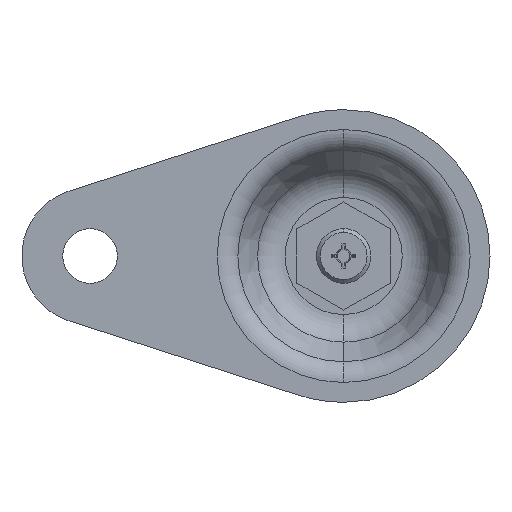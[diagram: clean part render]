
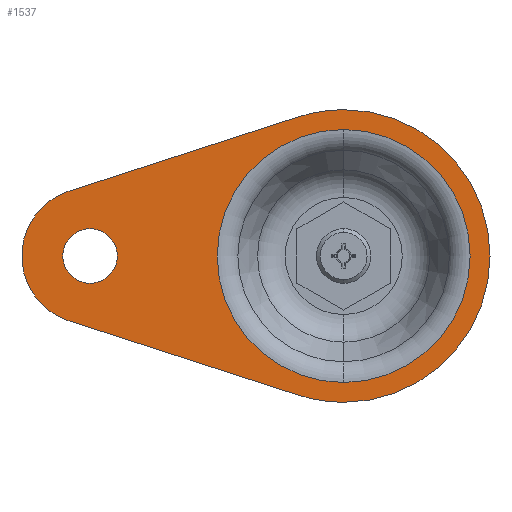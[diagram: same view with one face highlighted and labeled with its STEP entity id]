
A CAD part, front view. The second image highlights one B-rep face of the part: STEP entity #1537.
In plain terms, the highlighted planar face has unit normal (0, -1, 0).
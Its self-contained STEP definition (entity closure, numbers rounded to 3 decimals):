
#6 = EDGE_CURVE ( 'NONE', #204, #107, #1630, .T. ) ;
#52 = EDGE_CURVE ( 'NONE', #215, #203, #1695, .T. ) ;
#107 = VERTEX_POINT ( 'NONE', #1014 ) ;
#142 = VERTEX_POINT ( 'NONE', #1103 ) ;
#145 = VERTEX_POINT ( 'NONE', #973 ) ;
#154 = VERTEX_POINT ( 'NONE', #864 ) ;
#198 = VERTEX_POINT ( 'NONE', #967 ) ;
#203 = VERTEX_POINT ( 'NONE', #861 ) ;
#204 = VERTEX_POINT ( 'NONE', #939 ) ;
#215 = VERTEX_POINT ( 'NONE', #1018 ) ;
#217 = VERTEX_POINT ( 'NONE', #871 ) ;
#226 = VERTEX_POINT ( 'NONE', #1052 ) ;
#333 = CARTESIAN_POINT ( 'NONE',  ( 0., 0., 0. ) ) ;
#348 = DIRECTION ( 'NONE',  ( 0., -1., 0. ) ) ;
#390 = DIRECTION ( 'NONE',  ( 0., 0., -1. ) ) ;
#454 = DIRECTION ( 'NONE',  ( 0., 0., -1. ) ) ;
#455 = DIRECTION ( 'NONE',  ( 0., -1., 0. ) ) ;
#456 = CARTESIAN_POINT ( 'NONE',  ( 0., 0., 0. ) ) ;
#481 = CIRCLE ( 'NONE', #771, 37.5 ) ;
#520 = CIRCLE ( 'NONE', #779, 37.5 ) ;
#528 = CIRCLE ( 'NONE', #782, 37.5 ) ;
#618 = FACE_BOUND ( 'NONE', #2001, .T. ) ;
#624 = FACE_OUTER_BOUND ( 'NONE', #2010, .T. ) ;
#625 = FACE_BOUND ( 'NONE', #1983, .T. ) ;
#661 = DIRECTION ( 'NONE',  ( 0., 0., 1. ) ) ;
#662 = DIRECTION ( 'NONE',  ( 0., 1., 0. ) ) ;
#680 = CARTESIAN_POINT ( 'NONE',  ( -65., 0., 0. ) ) ;
#720 = EDGE_CURVE ( 'NONE', #203, #215, #1799, .T. ) ;
#721 = EDGE_CURVE ( 'NONE', #198, #145, #1800, .T. ) ;
#722 = EDGE_CURVE ( 'NONE', #142, #198, #1785, .T. ) ;
#723 = EDGE_CURVE ( 'NONE', #217, #142, #1801, .T. ) ;
#724 = EDGE_CURVE ( 'NONE', #107, #204, #1803, .T. ) ;
#763 = AXIS2_PLACEMENT_3D ( 'NONE', #813, #1024, #1049 ) ;
#764 = AXIS2_PLACEMENT_3D ( 'NONE', #1114, #1067, #854 ) ;
#765 = AXIS2_PLACEMENT_3D ( 'NONE', #1047, #1043, #1057 ) ;
#771 = AXIS2_PLACEMENT_3D ( 'NONE', #1055, #806, #814 ) ;
#779 = AXIS2_PLACEMENT_3D ( 'NONE', #333, #348, #390 ) ;
#782 = AXIS2_PLACEMENT_3D ( 'NONE', #456, #455, #454 ) ;
#806 = DIRECTION ( 'NONE',  ( 0., -1., 0. ) ) ;
#813 = CARTESIAN_POINT ( 'NONE',  ( 0., 0., 0. ) ) ;
#814 = DIRECTION ( 'NONE',  ( 0., 0., -1. ) ) ;
#837 = DIRECTION ( 'NONE',  ( -0.951, 0., 0.308 ) ) ;
#838 = CARTESIAN_POINT ( 'NONE',  ( -70.385, 0., -16.651 ) ) ;
#854 = DIRECTION ( 'NONE',  ( 0., 0., 1. ) ) ;
#861 = CARTESIAN_POINT ( 'NONE',  ( 0., 0., 32.412 ) ) ;
#864 = CARTESIAN_POINT ( 'NONE',  ( 0., 0., 37.5 ) ) ;
#871 = CARTESIAN_POINT ( 'NONE',  ( -11.538, 0., -35.681 ) ) ;
#881 = EDGE_CURVE ( 'NONE', #217, #226, #481, .T. ) ;
#922 = EDGE_CURVE ( 'NONE', #154, #145, #520, .T. ) ;
#929 = EDGE_CURVE ( 'NONE', #226, #154, #528, .T. ) ;
#933 = AXIS2_PLACEMENT_3D ( 'NONE', #680, #662, #661 ) ;
#939 = CARTESIAN_POINT ( 'NONE',  ( -65., 0., -7. ) ) ;
#953 = AXIS2_PLACEMENT_3D ( 'NONE', #1475, #1292, #1437 ) ;
#967 = CARTESIAN_POINT ( 'NONE',  ( -70.385, 0., 16.651 ) ) ;
#973 = CARTESIAN_POINT ( 'NONE',  ( -11.538, 0., 35.681 ) ) ;
#1014 = CARTESIAN_POINT ( 'NONE',  ( -65., 0., 7. ) ) ;
#1018 = CARTESIAN_POINT ( 'NONE',  ( 0., 0., -32.412 ) ) ;
#1023 = CARTESIAN_POINT ( 'NONE',  ( -70.385, 0., 16.651 ) ) ;
#1024 = DIRECTION ( 'NONE',  ( 0., -1., 0. ) ) ;
#1031 = DIRECTION ( 'NONE',  ( 0.951, 0., 0.308 ) ) ;
#1043 = DIRECTION ( 'NONE',  ( 0., 1., 0. ) ) ;
#1047 = CARTESIAN_POINT ( 'NONE',  ( -65., 0., 0. ) ) ;
#1049 = DIRECTION ( 'NONE',  ( 0., 0., -1. ) ) ;
#1052 = CARTESIAN_POINT ( 'NONE',  ( 0., 0., -37.5 ) ) ;
#1055 = CARTESIAN_POINT ( 'NONE',  ( 0., 0., 0. ) ) ;
#1057 = DIRECTION ( 'NONE',  ( 0., 0., 1. ) ) ;
#1067 = DIRECTION ( 'NONE',  ( 0., 1., 0. ) ) ;
#1103 = CARTESIAN_POINT ( 'NONE',  ( -70.385, 0., -16.651 ) ) ;
#1114 = CARTESIAN_POINT ( 'NONE',  ( -65., 0., 0. ) ) ;
#1200 = DIRECTION ( 'NONE',  ( 0., 0., 1. ) ) ;
#1201 = PLANE ( 'NONE',  #1886 ) ;
#1207 = DIRECTION ( 'NONE',  ( 0., 1., 0. ) ) ;
#1208 = CARTESIAN_POINT ( 'NONE',  ( -37.5, 0., 0. ) ) ;
#1292 = DIRECTION ( 'NONE',  ( 0., -1., 0. ) ) ;
#1437 = DIRECTION ( 'NONE',  ( 0., 0., -1. ) ) ;
#1475 = CARTESIAN_POINT ( 'NONE',  ( 0., 0., 0. ) ) ;
#1537 = ADVANCED_FACE ( 'NONE', ( #624, #618, #625 ), #1201, .F. ) ;
#1630 = CIRCLE ( 'NONE', #933, 7. ) ;
#1695 = CIRCLE ( 'NONE', #953, 32.412 ) ;
#1785 = CIRCLE ( 'NONE', #764, 17.5 ) ;
#1799 = CIRCLE ( 'NONE', #763, 32.412 ) ;
#1800 = LINE ( 'NONE', #1023, #1802 ) ;
#1801 = LINE ( 'NONE', #838, #1805 ) ;
#1802 = VECTOR ( 'NONE', #1031, 1000. ) ;
#1803 = CIRCLE ( 'NONE', #765, 7. ) ;
#1805 = VECTOR ( 'NONE', #837, 1000. ) ;
#1886 = AXIS2_PLACEMENT_3D ( 'NONE', #1208, #1207, #1200 ) ;
#1983 = EDGE_LOOP ( 'NONE', ( #2032, #2023 ) ) ;
#2001 = EDGE_LOOP ( 'NONE', ( #2049, #2035 ) ) ;
#2010 = EDGE_LOOP ( 'NONE', ( #2046, #2030, #2011, #2052, #2036, #2037 ) ) ;
#2011 = ORIENTED_EDGE ( 'NONE', *, *, #922, .T. ) ;
#2023 = ORIENTED_EDGE ( 'NONE', *, *, #6, .T. ) ;
#2030 = ORIENTED_EDGE ( 'NONE', *, *, #929, .T. ) ;
#2032 = ORIENTED_EDGE ( 'NONE', *, *, #724, .T. ) ;
#2035 = ORIENTED_EDGE ( 'NONE', *, *, #720, .F. ) ;
#2036 = ORIENTED_EDGE ( 'NONE', *, *, #722, .F. ) ;
#2037 = ORIENTED_EDGE ( 'NONE', *, *, #723, .F. ) ;
#2046 = ORIENTED_EDGE ( 'NONE', *, *, #881, .T. ) ;
#2049 = ORIENTED_EDGE ( 'NONE', *, *, #52, .F. ) ;
#2052 = ORIENTED_EDGE ( 'NONE', *, *, #721, .F. ) ;
